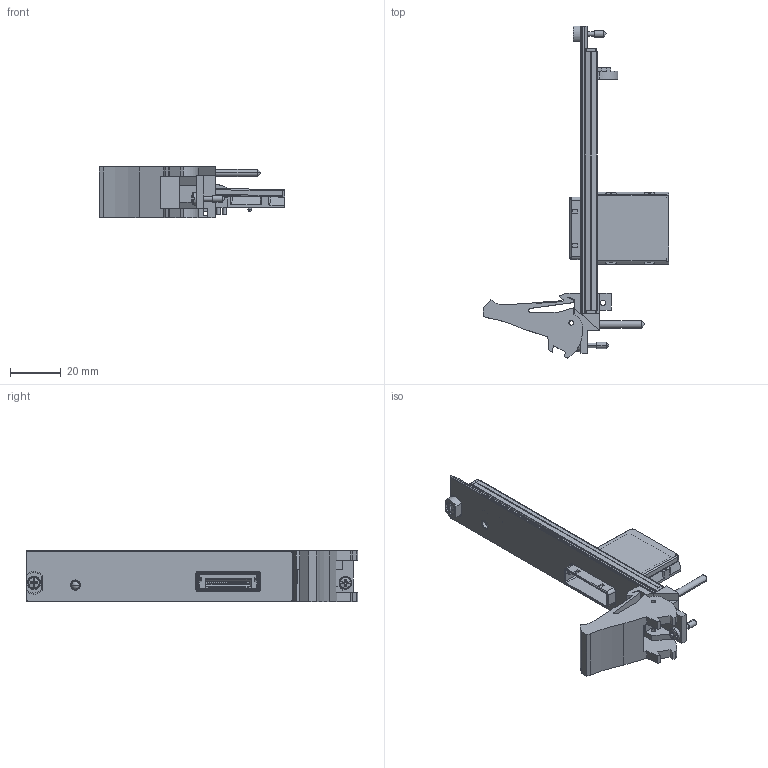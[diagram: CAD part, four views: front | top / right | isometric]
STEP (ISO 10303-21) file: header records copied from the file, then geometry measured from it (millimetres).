
FILE_DESCRIPTION((''),'2;1');
FILE_NAME('CU_PXIE-8374','2013-09-24T',('jjorden'),(''),'PRO/ENGINEER BY PARAMETRIC TECHNOLOGY CORPORATION, 2011490','PRO/ENGINEER BY PARAMETRIC TECHNOLOGY CORPORATION, 2011490','');
FILE_SCHEMA(('CONFIG_CONTROL_DESIGN'));
Products named in the file (1): CU_PXIE-8374
Bounding box: 73.03 x 130.5 x 20.31 mm (x, y, z)
Volume: 17758.7 mm3; surface area: 21470.7 mm2
Topology: 4 solids, 4 shells, 2121 faces, 6072 edges, 3988 vertices
Faces by surface type: plane 1554, cylinder 521, cone 24, sphere 12, torus 10
Entity records: 69367 total; most frequent: CARTESIAN_POINT 13058, ORIENTED_EDGE 12120, DIRECTION 11212, EDGE_CURVE 6060, VECTOR 4862, LINE 4862, VERTEX_POINT 3988, AXIS2_PLACEMENT_3D 3175
